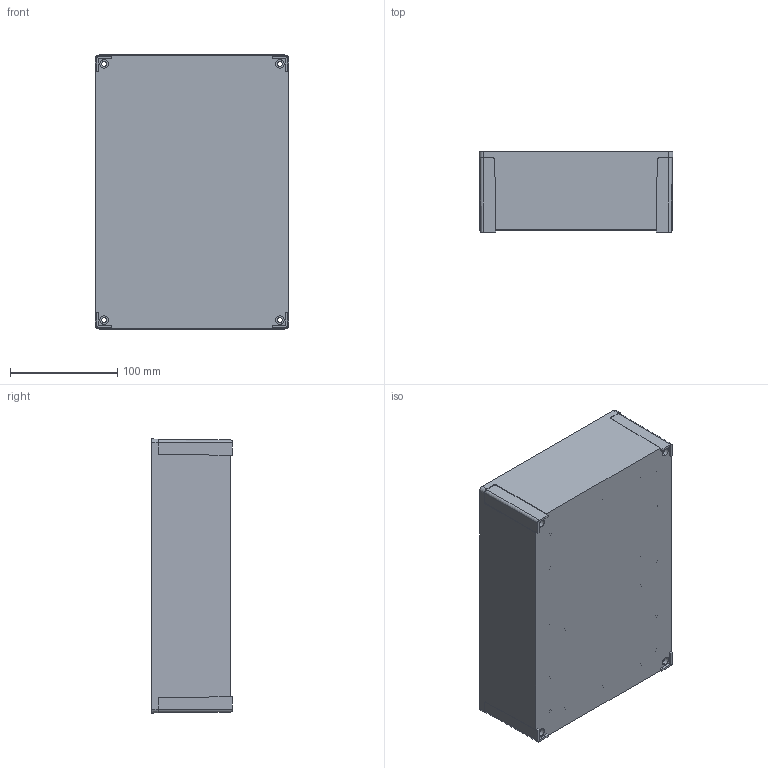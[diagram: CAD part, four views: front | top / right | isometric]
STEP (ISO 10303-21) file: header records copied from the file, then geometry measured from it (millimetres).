
FILE_DESCRIPTION (( 'STEP AP203' ), '1' );
FILE_NAME ('FIBOX_MNX200XHB.STEP', '2005-06-30T06:56:03', ( ' ' ), ( ' ' ), 'SwSTEP 2.0', 'SolidWorks 2005143', '' );
FILE_SCHEMA (( 'CONFIG_CONTROL_DESIGN' ));
Length unit declared in the file: millimetre
Products named in the file (1): FIBOX_MNX200XHB
Bounding box: 180.1 x 75 x 255.1 mm (x, y, z)
Volume: 421194 mm3; surface area: 225258.5 mm2
Topology: 1 solids, 1 shells, 446 faces, 1061 edges, 702 vertices
Faces by surface type: plane 242, cylinder 180, cone 24
Entity records: 13134 total; most frequent: CARTESIAN_POINT 2354, DIRECTION 2323, ORIENTED_EDGE 2122, EDGE_CURVE 1061, AXIS2_PLACEMENT_3D 847, VERTEX_POINT 702, VECTOR 629, LINE 629
